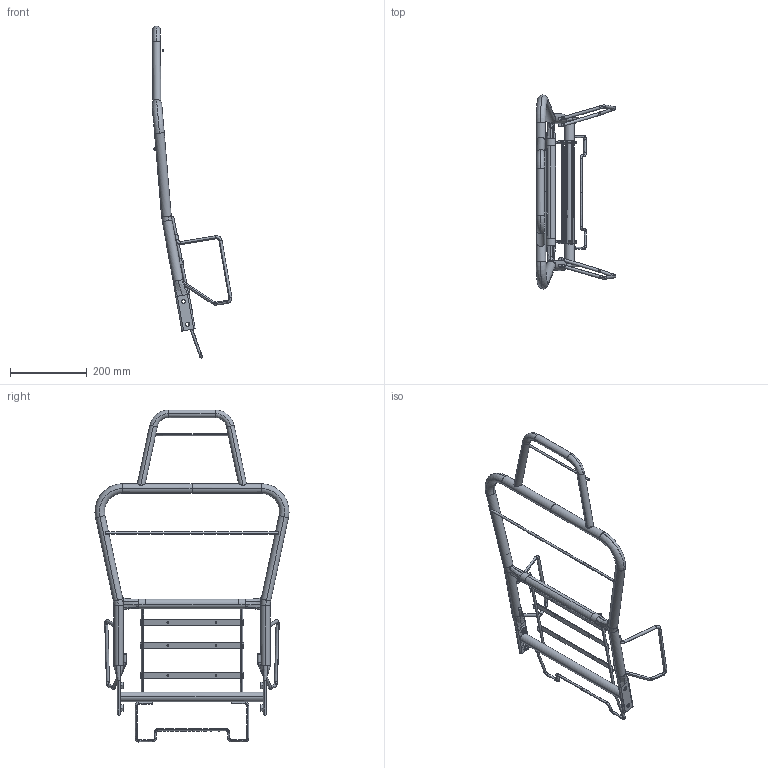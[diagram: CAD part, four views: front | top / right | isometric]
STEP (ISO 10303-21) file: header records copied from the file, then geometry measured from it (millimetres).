
FILE_DESCRIPTION(('CATIA V5 STEP Exchange'),'2;1');
FILE_NAME('C:\Users\Administrator\Desktop\骨架资料\新建文件夹\SHT0015550-2023.2.10stp.stp','2023-02-10T00:57:24+00:00',('none'),('none'),'CATIA Version 5 Release 20 GA (IN-10)','CATIA V5 STEP AP214','none');
FILE_SCHEMA(('AUTOMOTIVE_DESIGN { 1 0 10303 214 1 1 1 1 }'));
Length unit declared in the file: millimetre
Products named in the file (4): 产品1; SHT0015058_AllCATPart; 产品1_AllCATPart; Part51
Assembly tree (3 placements, depth 2):
  产品1
    SHT0015058_AllCATPart
    产品1_AllCATPart
    Part51
Bounding box: 207.67 x 504.27 x 862.96 mm (x, y, z)
Volume: 582348.3 mm3; surface area: 570839.4 mm2
Topology: 20 solids, 20 shells, 624 faces, 1561 edges, 988 vertices
Faces by surface type: cylinder 178, plane 146, bspline 140, torus 104, cone 32, extrusion 24
Entity records: 39753 total; most frequent: CARTESIAN_POINT 26791, ORIENTED_EDGE 3080, DIRECTION 1721, EDGE_CURVE 1540, VERTEX_POINT 962, AXIS2_PLACEMENT_3D 836, EDGE_LOOP 694, ADVANCED_FACE 624
